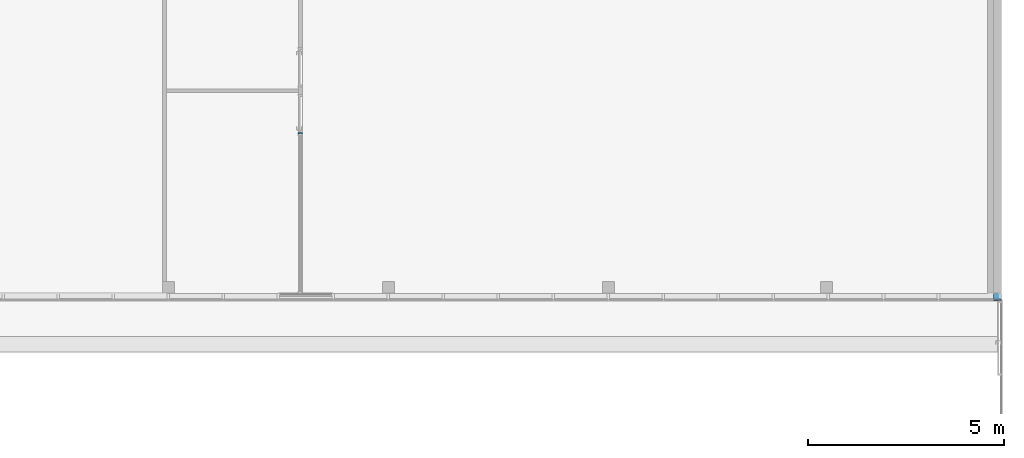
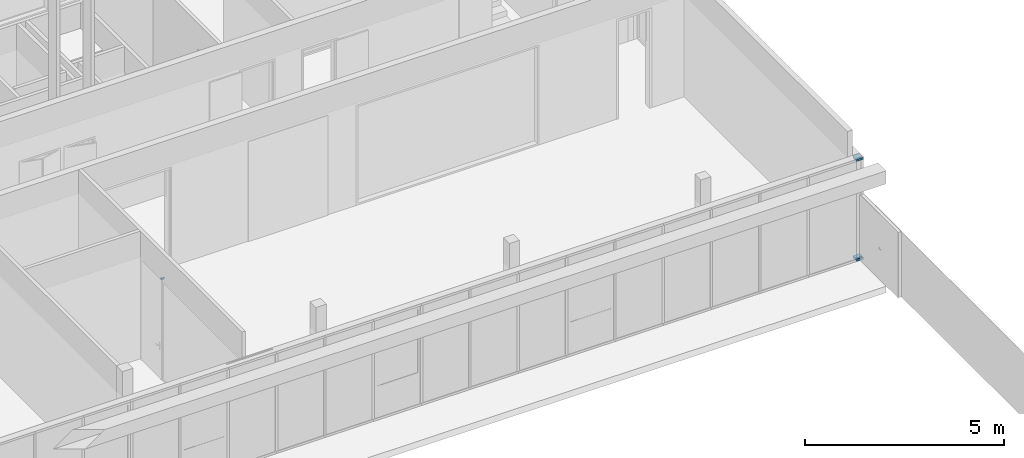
# One storey, part 49 of 240: 3 members, 2 elements without a shape of their own.
"""IFC2X3 building model written with IfcOpenShell, lengths in centimetres."""

from ifc_helpers import new_model, entity, si_unit, converted_unit, derived_unit, direction, frame, origin, origin_2d_with_axis, place, context, subcontext, project, spatial, polyline, rectangle, outline, extrude, source, transform, mapped, material, type_object, type_shapes, element, aggregate, save


model = new_model("IFC2X3")

# Units and contexts
model_context = context("Model", 3, precision=0.001, world=origin(), true_north=direction((6.12303176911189e-17, 1.0)))
body_context = subcontext(model_context, "Body", "Model", "MODEL_VIEW")
ifc_project = project(units=[si_unit("LENGTHUNIT", "METRE", prefix="CENTI"), si_unit("AREAUNIT", "SQUARE_METRE"), si_unit("VOLUMEUNIT", "CUBIC_METRE"), converted_unit("PLANEANGLEUNIT", "DEGREE", entity("IfcRatioMeasure", 0.0174532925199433), si_unit("PLANEANGLEUNIT", "RADIAN"), dimensions=[0, 0, 0, 0, 0, 0, 0]), si_unit("MASSUNIT", "GRAM", prefix="KILO"), derived_unit("MASSDENSITYUNIT", [(si_unit("MASSUNIT", "GRAM", prefix="KILO"), 1), (si_unit("LENGTHUNIT", "METRE"), -3)]), si_unit("TIMEUNIT", "SECOND"), si_unit("FREQUENCYUNIT", "HERTZ"), si_unit("THERMODYNAMICTEMPERATUREUNIT", "DEGREE_CELSIUS"), derived_unit("THERMALTRANSMITTANCEUNIT", [(si_unit("MASSUNIT", "GRAM", prefix="KILO"), 1), (si_unit("THERMODYNAMICTEMPERATUREUNIT", "KELVIN"), -1), (si_unit("TIMEUNIT", "SECOND"), -3)]), derived_unit("VOLUMETRICFLOWRATEUNIT", [(si_unit("LENGTHUNIT", "METRE"), 3), (si_unit("TIMEUNIT", "SECOND"), -1)]), si_unit("ELECTRICCURRENTUNIT", "AMPERE"), si_unit("ELECTRICVOLTAGEUNIT", "VOLT"), si_unit("POWERUNIT", "WATT"), si_unit("FORCEUNIT", "NEWTON", prefix="KILO"), si_unit("ILLUMINANCEUNIT", "LUX"), si_unit("LUMINOUSFLUXUNIT", "LUMEN"), si_unit("LUMINOUSINTENSITYUNIT", "CANDELA"), derived_unit("USERDEFINED", [(si_unit("MASSUNIT", "GRAM", prefix="KILO"), -1), (si_unit("LENGTHUNIT", "METRE"), -2), (si_unit("TIMEUNIT", "SECOND"), 3), (si_unit("LUMINOUSFLUXUNIT", "LUMEN"), 1)]), derived_unit("LINEARVELOCITYUNIT", [(si_unit("LENGTHUNIT", "METRE"), 1), (si_unit("TIMEUNIT", "SECOND"), -1)]), si_unit("PRESSUREUNIT", "PASCAL"), derived_unit("USERDEFINED", [(si_unit("LENGTHUNIT", "METRE"), -2), (si_unit("MASSUNIT", "GRAM", prefix="KILO"), 1), (si_unit("TIMEUNIT", "SECOND"), -2)])], contexts=[model_context])

# Site, building, storey
site_placement = place(None, frame((-2781.94577612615, 7442.24238424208, 0.0)))
site = spatial("IfcSite", under=ifc_project, at=site_placement, Name="Default", CompositionType="ELEMENT")
building_placement = place(site_placement, origin())
building = spatial("IfcBuilding", under=site, at=building_placement, CompositionType="ELEMENT")
storey_placement = place(building_placement, origin())
storey = spatial("IfcBuildingStorey", under=building, at=storey_placement, Name="N00 - COO", CompositionType="ELEMENT", Elevation=0.0)

# Curtain wall, members
curtain_wall_type_1 = type_object("IfcCurtainWallType", Name="Mur-rideau:07 - mur rideau trame 140 cm", PredefinedType="NOTDEFINED")
curtain_wall_1_placement = place(building_placement, origin())
curtain_wall_1 = element("IfcCurtainWall", 1, at=curtain_wall_1_placement, inside=storey, type_object=curtain_wall_type_1, Name="Mur-rideau:07 - mur rideau trame 140 cm", ObjectType="Mur-rideau:07 - mur rideau trame 140 cm")
ifc_material_1 = material(Name="Aluminium")
member_type_1 = type_object("IfcMemberType", Name="150 x 25mm Détails", PredefinedType="MEMBER")
shared_shape_1 = source(origin(), body_context, "Body", "SweptSolid", [
    extrude(outline(polyline([(-5.6666666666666, -3.24999999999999), (-3.66666666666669, -3.24999999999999), (-3.66666666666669, -0.868749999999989), (-0.166666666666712, -0.868749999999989), (-0.166666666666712, -3.25000000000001), (13.3333333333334, -3.25000000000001), (13.3333333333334, 3.24999999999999), (-0.16666666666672, 3.24999999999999), (-0.16666666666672, 0.868749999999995), (-3.66666666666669, 0.868749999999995), (-3.66666666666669, 3.25), (-5.6666666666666, 3.25), (-5.6666666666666, -3.24999999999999)])), frame((-3.24999999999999, -1.96666666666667, -19.7999999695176), z_axis=(0.0, 0.0, 1.0), x_axis=(0.0, -1.0, 0.0)), (0.0, 0.0, 1.0), 19.7999999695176),
])
type_shapes(member_type_1, [shared_shape_1])
member_1_placement = place(building_placement, frame((-390.499882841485, -3046.51349958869, 312.5), z_axis=(1.0, 0.0, 0.0), x_axis=(0.0, 0.0, 1.0)))
member_1 = element("IfcMember", 2, at=member_1_placement, type_object=member_type_1, material=ifc_material_1, Name="Meneau rectangulaire:150 x 25mm Détails", ObjectType="Meneau rectangulaire:150 x 25mm Détails", context=body_context, shape_type="MappedRepresentation", body=[
    mapped(shared_shape_1, transform((0.0, 0.0, 0.0), scale=1.0)),
])
member_type_2 = type_object("IfcMemberType", Name="150 x 25mm Détails", PredefinedType="MEMBER")
shared_shape_2 = source(origin(), body_context, "Body", "SweptSolid", [
    extrude(outline(polyline([(-5.66666666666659, -3.25), (-3.66666666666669, -3.25), (-3.66666666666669, -0.868749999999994), (-0.166666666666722, -0.868749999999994), (-0.166666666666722, -3.25000000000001), (13.3333333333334, -3.24999999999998), (13.3333333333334, 3.25000000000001), (-0.166666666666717, 3.25000000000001), (-0.166666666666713, 0.868749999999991), (-3.66666666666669, 0.868749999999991), (-3.66666666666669, 3.24999999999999), (-5.66666666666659, 3.24999999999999), (-5.66666666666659, -3.25)])), frame((-3.24999999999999, -1.96666666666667, -19.7999999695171), z_axis=(0.0, 0.0, 1.0), x_axis=(0.0, -1.0, 0.0)), (0.0, 0.0, 1.0), 19.7999999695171),
])
type_shapes(member_type_2, [shared_shape_2])
member_2_placement = place(building_placement, frame((-410.299882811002, -3046.51349958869, 0.0), z_axis=(-1.0, 0.0, 0.0), x_axis=(0.0, 0.0, -1.0)))
member_2 = element("IfcMember", 3, at=member_2_placement, type_object=member_type_2, material=ifc_material_1, Name="Meneau rectangulaire:150 x 25mm Détails", ObjectType="Meneau rectangulaire:150 x 25mm Détails", context=body_context, shape_type="MappedRepresentation", body=[
    mapped(shared_shape_2, transform((0.0, 0.0, 0.0), scale=1.0)),
])
aggregate(curtain_wall_1, [member_1, member_2])

# Curtain wall, member
curtain_wall_type_2 = type_object("IfcCurtainWallType", PredefinedType="NOTDEFINED")
curtain_wall_2_placement = place(building_placement, origin())
curtain_wall_2 = element("IfcCurtainWall", 4, at=curtain_wall_2_placement, inside=storey, type_object=curtain_wall_type_2)
ifc_material_2 = material(Name="Plastique, blanc opaque")
member_type_3 = type_object("IfcMemberType", Name="100 x 50mm", PredefinedType="MEMBER")
shared_shape_3 = source(origin(), body_context, "Body", "SweptSolid", [
    extrude(rectangle(XDim=10.0, YDim=5.0, at=origin_2d_with_axis()), frame((-2.5, 0.0, -3.50000000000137), z_axis=(0.0, 0.0, 1.0), x_axis=(0.0, -1.0, 0.0)), (0.0, 0.0, 1.0), 3.50000000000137),
])
type_shapes(member_type_3, [shared_shape_3])
member_3_placement = place(building_placement, frame((-2174.19987968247, -2621.65656731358, 304.500000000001), z_axis=(0.0, 1.0, 0.0), x_axis=(0.0, 0.0, -1.0)))
member_3 = element("IfcMember", 5, at=member_3_placement, type_object=member_type_3, material=ifc_material_2, Name="Meneau rectangulaire:100 x 50mm", ObjectType="Meneau rectangulaire:100 x 50mm", context=body_context, shape_type="MappedRepresentation", body=[
    mapped(shared_shape_3, transform((0.0, 0.0, 0.0), scale=1.0)),
])
aggregate(curtain_wall_2, [member_3])

save(model, "model.ifc")
